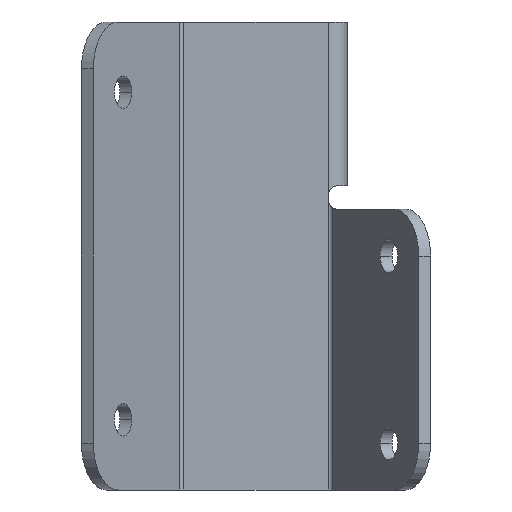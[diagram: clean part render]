
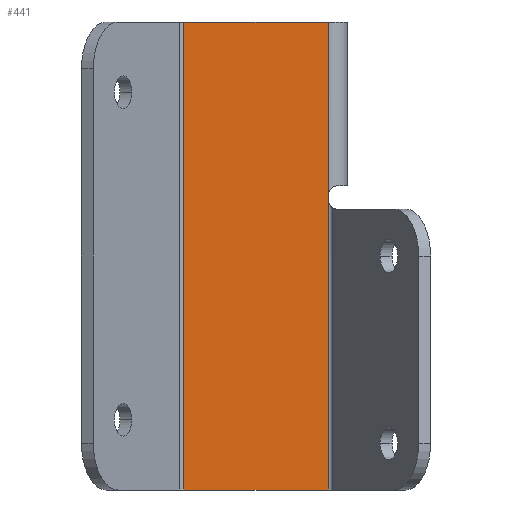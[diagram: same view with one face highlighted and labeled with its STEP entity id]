
A CAD part, front view. The second image highlights one B-rep face of the part: STEP entity #441.
In plain terms, the highlighted planar face has unit normal (0, -1, 0).
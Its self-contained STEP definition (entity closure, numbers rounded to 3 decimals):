
#276 = VERTEX_POINT ( 'NONE', #1112 ) ;
#282 = VERTEX_POINT ( 'NONE', #1009 ) ;
#363 = EDGE_CURVE ( 'NONE', #364, #276, #1332, .T. ) ;
#364 = VERTEX_POINT ( 'NONE', #1264 ) ;
#372 = EDGE_CURVE ( 'NONE', #282, #276, #1313, .T. ) ;
#381 = ORIENTED_EDGE ( 'NONE', *, *, #372, .F. ) ;
#395 = VERTEX_POINT ( 'NONE', #1304 ) ;
#396 = EDGE_CURVE ( 'NONE', #397, #282, #1198, .T. ) ;
#397 = VERTEX_POINT ( 'NONE', #1318 ) ;
#398 = ORIENTED_EDGE ( 'NONE', *, *, #436, .F. ) ;
#400 = VERTEX_POINT ( 'NONE', #1205 ) ;
#401 = EDGE_CURVE ( 'NONE', #395, #400, #1184, .T. ) ;
#402 = EDGE_CURVE ( 'NONE', #400, #397, #1214, .T. ) ;
#403 = ORIENTED_EDGE ( 'NONE', *, *, #402, .F. ) ;
#433 = ORIENTED_EDGE ( 'NONE', *, *, #363, .T. ) ;
#434 = ORIENTED_EDGE ( 'NONE', *, *, #401, .F. ) ;
#436 = EDGE_CURVE ( 'NONE', #364, #395, #1337, .T. ) ;
#438 = ORIENTED_EDGE ( 'NONE', *, *, #396, .F. ) ;
#441 = ADVANCED_FACE ( 'NONE', ( #1173 ), #1336, .T. ) ;
#442 = EDGE_LOOP ( 'NONE', ( #381, #438, #403, #434, #398, #433 ) ) ;
#1009 = CARTESIAN_POINT ( 'NONE',  ( 15.446, 40., 0. ) ) ;
#1112 = CARTESIAN_POINT ( 'NONE',  ( -15.446, 40., 0. ) ) ;
#1167 = DIRECTION ( 'NONE',  ( 0., 0., -1. ) ) ;
#1168 = DIRECTION ( 'NONE',  ( 0., -1., 0. ) ) ;
#1169 = CARTESIAN_POINT ( 'NONE',  ( -16., 40., 60. ) ) ;
#1173 = FACE_OUTER_BOUND ( 'NONE', #442, .T. ) ;
#1180 = VECTOR ( 'NONE', #1217, 1000. ) ;
#1181 = CARTESIAN_POINT ( 'NONE',  ( 15.446, 40., 100. ) ) ;
#1184 = LINE ( 'NONE', #1181, #1180 ) ;
#1198 = LINE ( 'NONE', #1322, #1203 ) ;
#1203 = VECTOR ( 'NONE', #1321, 1000. ) ;
#1204 = CARTESIAN_POINT ( 'NONE',  ( 15.446, 40., 100. ) ) ;
#1205 = CARTESIAN_POINT ( 'NONE',  ( 15.446, 40., 63. ) ) ;
#1212 = DIRECTION ( 'NONE',  ( 0., 0., -1. ) ) ;
#1213 = VECTOR ( 'NONE', #1212, 1000. ) ;
#1214 = LINE ( 'NONE', #1204, #1213 ) ;
#1217 = DIRECTION ( 'NONE',  ( 0., 0., -1. ) ) ;
#1264 = CARTESIAN_POINT ( 'NONE',  ( -15.446, 40., 100. ) ) ;
#1294 = VECTOR ( 'NONE', #1342, 1000. ) ;
#1303 = CARTESIAN_POINT ( 'NONE',  ( -16., 40., 0. ) ) ;
#1304 = CARTESIAN_POINT ( 'NONE',  ( 15.446, 40., 100. ) ) ;
#1311 = DIRECTION ( 'NONE',  ( -1., 0., 0. ) ) ;
#1312 = VECTOR ( 'NONE', #1311, 1000. ) ;
#1313 = LINE ( 'NONE', #1303, #1312 ) ;
#1318 = CARTESIAN_POINT ( 'NONE',  ( 15.446, 40., 62. ) ) ;
#1321 = DIRECTION ( 'NONE',  ( 0., 0., -1. ) ) ;
#1322 = CARTESIAN_POINT ( 'NONE',  ( 15.446, 40., 60. ) ) ;
#1329 = DIRECTION ( 'NONE',  ( 0., 0., -1. ) ) ;
#1330 = VECTOR ( 'NONE', #1329, 1000. ) ;
#1331 = CARTESIAN_POINT ( 'NONE',  ( -15.446, 40., 60. ) ) ;
#1332 = LINE ( 'NONE', #1331, #1330 ) ;
#1335 = AXIS2_PLACEMENT_3D ( 'NONE', #1169, #1168, #1167 ) ;
#1336 = PLANE ( 'NONE',  #1335 ) ;
#1337 = LINE ( 'NONE', #1343, #1294 ) ;
#1342 = DIRECTION ( 'NONE',  ( 1., 0., 0. ) ) ;
#1343 = CARTESIAN_POINT ( 'NONE',  ( -15.446, 40., 100. ) ) ;
